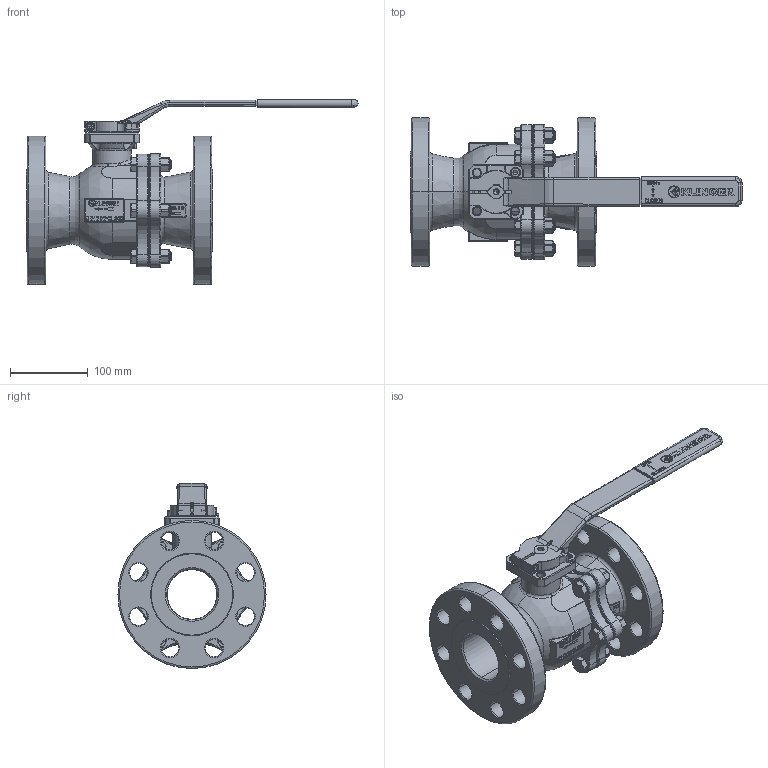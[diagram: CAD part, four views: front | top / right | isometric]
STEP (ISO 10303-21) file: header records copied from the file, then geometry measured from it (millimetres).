
FILE_DESCRIPTION((''),'2;1');
FILE_NAME('KHEFS-52VFS-52C300PKK','2015-08-11T',('mahrhauserh'),('RAND'),'PRO/ENGINEER BY PARAMETRIC TECHNOLOGY CORPORATION, 2013410','PRO/ENGINEER BY PARAMETRIC TECHNOLOGY CORPORATION, 2013410','');
FILE_SCHEMA(('CONFIG_CONTROL_DESIGN'));
Products named in the file (1): KHEFS-52VFS-52C300PKK
Bounding box: 428 x 191 x 238.55 mm (x, y, z)
Volume: 2525446.7 mm3; surface area: 461612.1 mm2
Topology: 1 solids, 1 shells, 3610 faces, 9369 edges, 5904 vertices
Faces by surface type: plane 2081, cylinder 564, torus 397, bspline 276, cone 261, sphere 31
Entity records: 136950 total; most frequent: CARTESIAN_POINT 49537, ORIENTED_EDGE 18726, DIRECTION 17544, EDGE_CURVE 9363, VECTOR 6102, LINE 6102, VERTEX_POINT 5904, AXIS2_PLACEMENT_3D 5721
